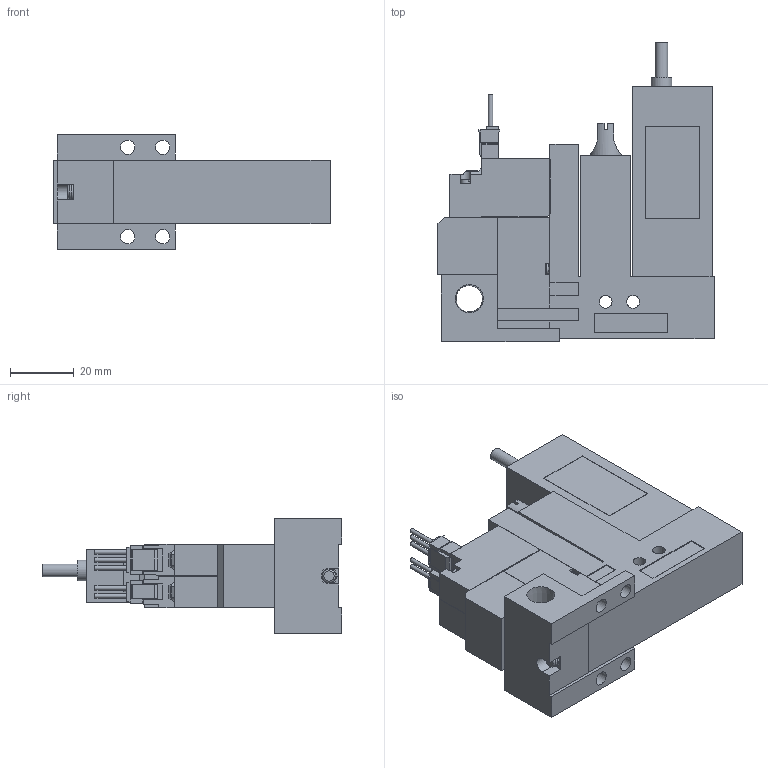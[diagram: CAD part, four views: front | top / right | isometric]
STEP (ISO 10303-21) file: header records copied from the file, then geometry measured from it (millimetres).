
FILE_DESCRIPTION(('STEP AP203'),'1');
FILE_NAME('VG_VGPL5WLR101.stp','2025-02-20T03:21:22',(' '),(' '),'Spatial InterOp 3D',' ',' ');
FILE_SCHEMA(('CONFIG_CONTROL_DESIGN'));
Length unit declared in the file: millimetre
Products named in the file (5): BMC22M※※※※VG_VGPL5WLR101; Solenoid valve W; Pressure sensor VGL; Unit L; Base MR10R
Assembly tree (4 placements, depth 2):
  BMC22M※※※※VG_VGPL5WLR101
    Solenoid valve W
    Pressure sensor VGL
    Unit L
    Base MR10R
Bounding box: 86.6 x 94 x 36 mm (x, y, z)
Volume: 105159 mm3; surface area: 29819.7 mm2
Topology: 4 solids, 4 shells, 381 faces, 1021 edges, 677 vertices
Faces by surface type: plane 318, cylinder 51, cone 9, torus 3
Full cylindrical faces by diameter (mm): 1.4 x5, 2.5 x3, 3 x4, 3.5 x4, 3.6 x1, 4 x6, 4.134 x1, 4.5 x4, 5.2 x1, 6 x1, 6.5 x1, 6.6 x1, 8.279 x1
Entity records: 11748 total; most frequent: CARTESIAN_POINT 2133, ORIENTED_EDGE 1902, DIRECTION 1861, EDGE_CURVE 951, LINE 803, VECTOR 803, VERTEX_POINT 656, AXIS2_PLACEMENT_3D 529
